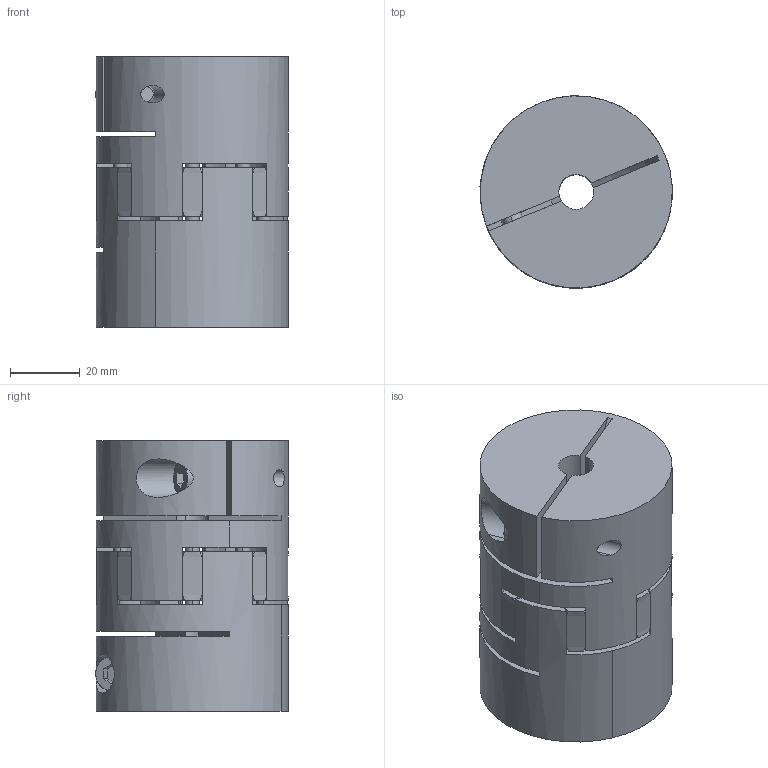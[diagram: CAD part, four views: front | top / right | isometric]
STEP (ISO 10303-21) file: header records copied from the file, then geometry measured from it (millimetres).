
FILE_DESCRIPTION (( 'STEP AP214' ), '1' );
FILE_NAME ('LC-C-055-10B-10B.STEP', '2019-09-12T08:40:21', ( 'admin' ), ( 'Microsoft' ), 'SwSTEP 2.0', 'SolidWorks 2016', '' );
FILE_SCHEMA (( 'AUTOMOTIVE_DESIGN' ));
Length unit declared in the file: millimetre
Products named in the file (1): LC-C-055-10B-10B
Bounding box: 55.16 x 55.15 x 77.5 mm (x, y, z)
Volume: 158236.5 mm3; surface area: 43645 mm2
Topology: 5 solids, 5 shells, 233 faces, 619 edges, 408 vertices
Faces by surface type: cylinder 121, plane 64, cone 40, torus 8
Entity records: 10402 total; most frequent: CARTESIAN_POINT 1769, DIRECTION 1331, ORIENTED_EDGE 1238, EDGE_CURVE 619, AXIS2_PLACEMENT_3D 558, VERTEX_POINT 408, CIRCLE 324, EDGE_LOOP 263
